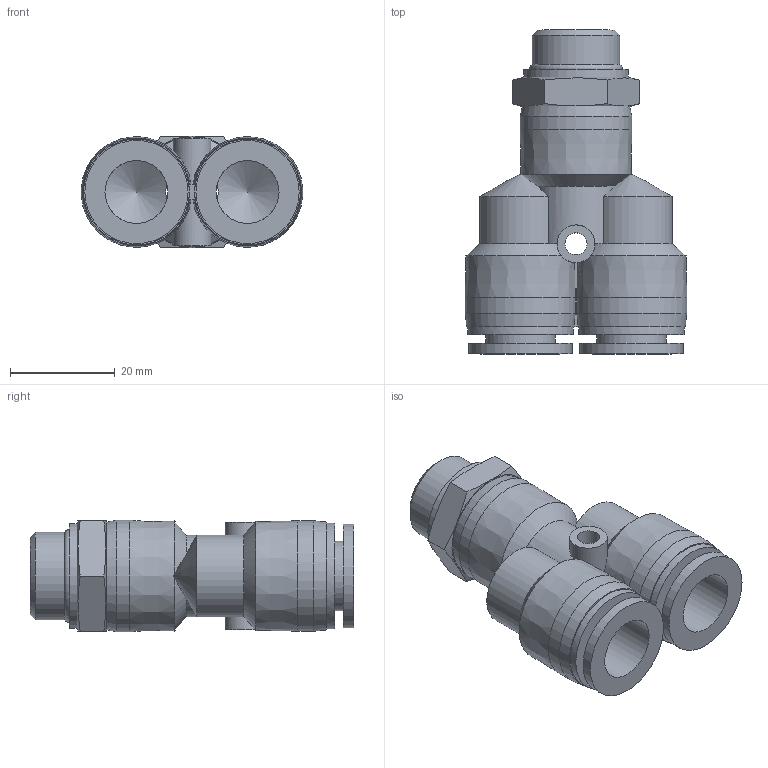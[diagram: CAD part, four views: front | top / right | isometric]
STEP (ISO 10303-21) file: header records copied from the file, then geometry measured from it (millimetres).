
FILE_DESCRIPTION(/* description */ (''),/* implementation_level */ '2;1');
FILE_NAME(/* name */ 'S:\_Tecnico\ArchivioUT\_Disegni3D ingombri\DISEGNI 3D per ingombri\RP\RP 74\RP743812.stp',/* time_stamp */ '2019-09-13T14:15:46+02:00',/* author */ ('ufficiotecnico3'),/* organization */ (''),/* preprocessor_version */ 'ST-DEVELOPER v18',/* originating_system */ 'Autodesk Inventor 2020',/* authorisation */ '');
FILE_SCHEMA (('AUTOMOTIVE_DESIGN { 1 0 10303 214 3 1 1 }'));
Length unit declared in the file: millimetre
Products named in the file (1): RP743812
Bounding box: 42.22 x 61.8 x 21.3 mm (x, y, z)
Volume: 17438.8 mm3; surface area: 11457.3 mm2
Topology: 1 solids, 2 shells, 87 faces, 249 edges, 167 vertices
Faces by surface type: plane 32, cylinder 30, cone 23, torus 2
Full cylindrical faces by diameter (mm): 4.2 x1, 7.2 x2, 10 x1, 11.5 x1, 12 x2, 13.3 x2, 14.7 x1, 16.662 x1, 19.7 x2, 20 x1, 20.2 x2, 21.3 x1
Entity records: 3196 total; most frequent: CARTESIAN_POINT 904, ORIENTED_EDGE 490, DIRECTION 466, EDGE_CURVE 245, AXIS2_PLACEMENT_3D 196, VERTEX_POINT 167, CIRCLE 104, EDGE_LOOP 100
